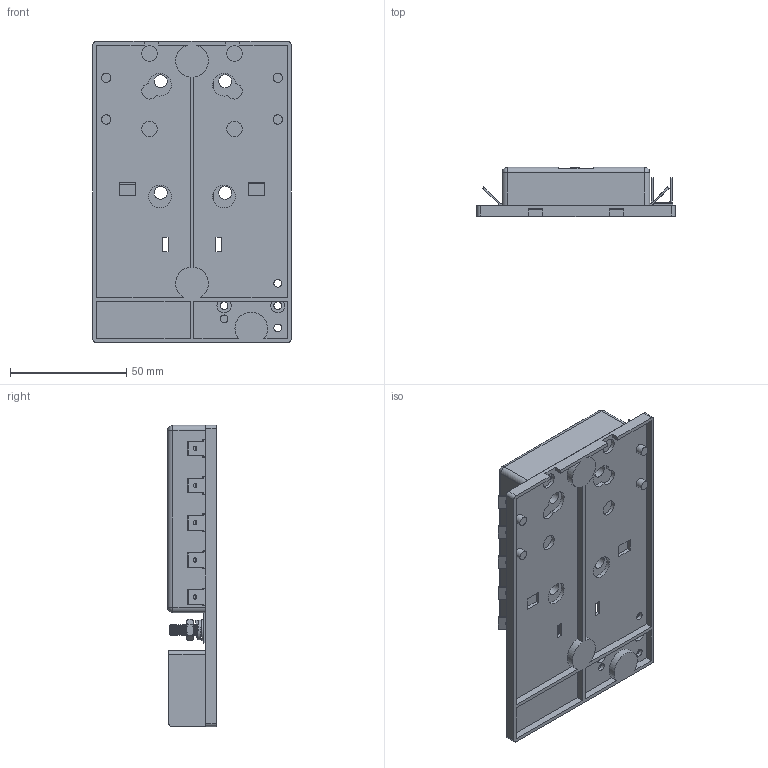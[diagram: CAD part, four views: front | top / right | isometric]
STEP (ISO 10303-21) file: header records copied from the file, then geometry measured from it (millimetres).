
FILE_DESCRIPTION(/* description */ (''),/* implementation_level */ '2;1');
FILE_NAME(/* name */ 'C:\Users\Hani\Desktop\work\BLC-110-G\BLC-110-G.stp',/* time_stamp */ '2021-07-08T15:49:48-07:00',/* author */ ('Hani'),/* organization */ (''),/* preprocessor_version */ 'ST-DEVELOPER v17',/* originating_system */ 'Autodesk Inventor 2019',/* authorisation */ '');
FILE_SCHEMA (('AUTOMOTIVE_DESIGN { 1 0 10303 214 3 1 1 }'));
Length unit declared in the file: inch
Products named in the file (12): BLC-106-G; BLC-106-G_1; BLOCK; plate; holder; plate2; STUD; WASHER; LOCK WASHER; HEX NUT; terminal; terminal_MIR
Assembly tree (31 placements, depth 2):
  BLC-106-G
    BLC-106-G_1
    BLOCK
    plate
    holder  x2
    plate2
    STUD  x2
    WASHER  x2
    LOCK WASHER  x2
    HEX NUT  x2
    terminal  x8
    terminal_MIR  x9
Bounding box: 85.24 x 21.01 x 129.54 mm (x, y, z)
Volume: 103271 mm3; surface area: 61796.8 mm2
Topology: 31 solids, 31 shells, 1468 faces, 3886 edges, 2530 vertices
Faces by surface type: plane 928, cylinder 325, cone 96, bspline 81, torus 34, sphere 4
Full cylindrical faces by diameter (mm): 1.905 x29, 3.302 x15, 3.769 x32, 3.795 x2, 4.064 x4, 4.775 x2, 4.801 x34, 4.826 x6, 4.953 x2, 5.41 x1, 5.588 x4, 6.147 x2, 6.706 x4, 8.992 x2, 9.779 x2, 10.16 x4
Entity records: 33869 total; most frequent: CARTESIAN_POINT 10523, ORIENTED_EDGE 4924, DIRECTION 4377, EDGE_CURVE 2462, LINE 1799, VECTOR 1799, VERTEX_POINT 1614, AXIS2_PLACEMENT_3D 1289
